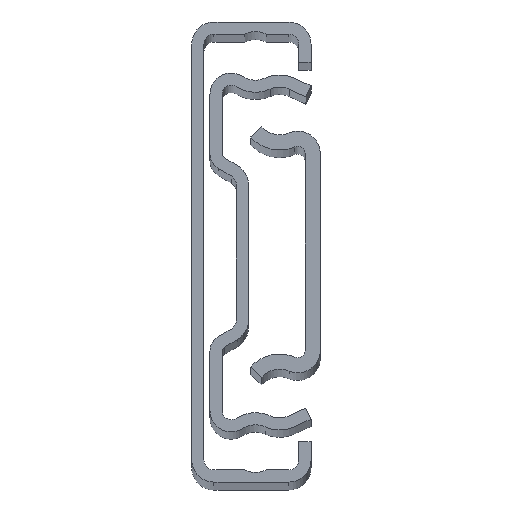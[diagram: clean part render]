
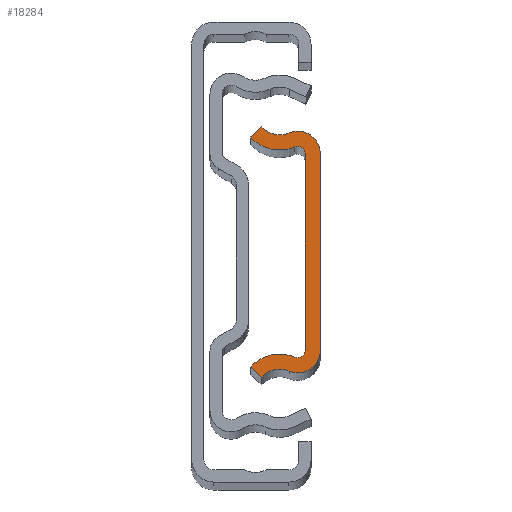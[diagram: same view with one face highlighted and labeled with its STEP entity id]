
A CAD part, top view. The second image highlights one B-rep face of the part: STEP entity #18284.
In plain terms, the highlighted planar face has unit normal (0, 0, 1).
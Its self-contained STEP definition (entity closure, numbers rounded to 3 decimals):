
#263 = DIRECTION ( 'NONE',  ( 1., 0., 0. ) ) ;
#378 = ORIENTED_EDGE ( 'NONE', *, *, #16891, .T. ) ;
#566 = ORIENTED_EDGE ( 'NONE', *, *, #9991, .T. ) ;
#674 = ORIENTED_EDGE ( 'NONE', *, *, #15639, .T. ) ;
#877 = ORIENTED_EDGE ( 'NONE', *, *, #7938, .T. ) ;
#944 = AXIS2_PLACEMENT_3D ( 'NONE', #6196, #19081, #10774 ) ;
#1139 = CARTESIAN_POINT ( 'NONE',  ( 3.45, -9.725, 0. ) ) ;
#1861 = CARTESIAN_POINT ( 'NONE',  ( 1.95, -9.725, 0. ) ) ;
#2195 = AXIS2_PLACEMENT_3D ( 'NONE', #13671, #2927, #7130 ) ;
#2927 = DIRECTION ( 'NONE',  ( 0., 0., 1. ) ) ;
#3216 = DIRECTION ( 'NONE',  ( 1., 0., 0. ) ) ;
#3491 = CARTESIAN_POINT ( 'NONE',  ( 1.224, -9.725, 0. ) ) ;
#3578 = ORIENTED_EDGE ( 'NONE', *, *, #17145, .T. ) ;
#3579 = VECTOR ( 'NONE', #8618, 1000. ) ;
#3627 = AXIS2_PLACEMENT_3D ( 'NONE', #22451, #18156, #7407 ) ;
#3733 = CARTESIAN_POINT ( 'NONE',  ( -2.333, -12.378, 0. ) ) ;
#3949 = CARTESIAN_POINT ( 'NONE',  ( 0.36, -11.777, 0. ) ) ;
#3975 = LINE ( 'NONE', #1139, #6654 ) ;
#4272 = CIRCLE ( 'NONE', #17738, 3.88 ) ;
#4507 = EDGE_CURVE ( 'NONE', #5116, #16095, #8234, .T. ) ;
#4623 = EDGE_CURVE ( 'NONE', #6690, #5588, #9578, .T. ) ;
#4990 = CARTESIAN_POINT ( 'NONE',  ( -3.45, 11.377, 0. ) ) ;
#5116 = VERTEX_POINT ( 'NONE', #1861 ) ;
#5588 = VERTEX_POINT ( 'NONE', #3733 ) ;
#5682 = CARTESIAN_POINT ( 'NONE',  ( 1.224, -9.725, 0. ) ) ;
#5772 = CIRCLE ( 'NONE', #6354, 2.38 ) ;
#5893 = DIRECTION ( 'NONE',  ( -1., 0., 0. ) ) ;
#5919 = ORIENTED_EDGE ( 'NONE', *, *, #11482, .T. ) ;
#6101 = DIRECTION ( 'NONE',  ( 0., 0., 1. ) ) ;
#6196 = CARTESIAN_POINT ( 'NONE',  ( -0.564, -13.97, 0. ) ) ;
#6354 = AXIS2_PLACEMENT_3D ( 'NONE', #23040, #27366, #10234 ) ;
#6654 = VECTOR ( 'NONE', #18252, 1000. ) ;
#6690 = VERTEX_POINT ( 'NONE', #23791 ) ;
#7073 = CIRCLE ( 'NONE', #27272, 2.226 ) ;
#7130 = DIRECTION ( 'NONE',  ( -1., 0., 0. ) ) ;
#7361 = VERTEX_POINT ( 'NONE', #23305 ) ;
#7407 = DIRECTION ( 'NONE',  ( -1., 0., 0. ) ) ;
#7730 = DIRECTION ( 'NONE',  ( 0., -1., 0. ) ) ;
#7938 = EDGE_CURVE ( 'NONE', #16095, #6690, #4272, .T. ) ;
#8152 = VERTEX_POINT ( 'NONE', #10159 ) ;
#8234 = CIRCLE ( 'NONE', #20356, 0.726 ) ;
#8311 = CIRCLE ( 'NONE', #21709, 2.38 ) ;
#8340 = DIRECTION ( 'NONE',  ( 1., 0., 0. ) ) ;
#8489 = EDGE_CURVE ( 'NONE', #8152, #7361, #10233, .T. ) ;
#8571 = CARTESIAN_POINT ( 'NONE',  ( 1.224, 9.725, 0. ) ) ;
#8618 = DIRECTION ( 'NONE',  ( 0.745, -0.667, 0. ) ) ;
#9032 = CARTESIAN_POINT ( 'NONE',  ( -0.564, -13.97, 0. ) ) ;
#9212 = CIRCLE ( 'NONE', #21196, 0.726 ) ;
#9578 = LINE ( 'NONE', #21407, #3579 ) ;
#9668 = CIRCLE ( 'NONE', #3627, 2.226 ) ;
#9991 = EDGE_CURVE ( 'NONE', #7361, #14368, #11844, .T. ) ;
#10155 = ORIENTED_EDGE ( 'NONE', *, *, #4623, .T. ) ;
#10159 = CARTESIAN_POINT ( 'NONE',  ( -2.333, 12.378, 0. ) ) ;
#10233 = LINE ( 'NONE', #4990, #13575 ) ;
#10234 = DIRECTION ( 'NONE',  ( 1., 0., 0. ) ) ;
#10258 = VERTEX_POINT ( 'NONE', #3949 ) ;
#10688 = CARTESIAN_POINT ( 'NONE',  ( 0.942, 10.394, 0. ) ) ;
#10774 = DIRECTION ( 'NONE',  ( 1., 0., 0. ) ) ;
#11302 = DIRECTION ( 'NONE',  ( 0., 0., 1. ) ) ;
#11482 = EDGE_CURVE ( 'NONE', #5588, #10258, #5772, .T. ) ;
#11844 = CIRCLE ( 'NONE', #2195, 3.88 ) ;
#13409 = VERTEX_POINT ( 'NONE', #26636 ) ;
#13575 = VECTOR ( 'NONE', #26484, 1000. ) ;
#13604 = DIRECTION ( 'NONE',  ( -1., 0., 0. ) ) ;
#13671 = CARTESIAN_POINT ( 'NONE',  ( -0.564, 13.97, 0. ) ) ;
#13762 = CARTESIAN_POINT ( 'NONE',  ( 0.36, 11.777, 0. ) ) ;
#14368 = VERTEX_POINT ( 'NONE', #10688 ) ;
#14777 = ORIENTED_EDGE ( 'NONE', *, *, #21446, .T. ) ;
#15106 = VECTOR ( 'NONE', #7730, 1000. ) ;
#15639 = EDGE_CURVE ( 'NONE', #10258, #18956, #7073, .T. ) ;
#15781 = ORIENTED_EDGE ( 'NONE', *, *, #17614, .T. ) ;
#16095 = VERTEX_POINT ( 'NONE', #16606 ) ;
#16468 = LINE ( 'NONE', #20516, #15106 ) ;
#16606 = CARTESIAN_POINT ( 'NONE',  ( 0.942, -10.394, 0. ) ) ;
#16891 = EDGE_CURVE ( 'NONE', #13409, #21898, #9668, .T. ) ;
#17145 = EDGE_CURVE ( 'NONE', #18956, #13409, #3975, .T. ) ;
#17614 = EDGE_CURVE ( 'NONE', #21898, #8152, #8311, .T. ) ;
#17738 = AXIS2_PLACEMENT_3D ( 'NONE', #9032, #11302, #263 ) ;
#17848 = CARTESIAN_POINT ( 'NONE',  ( 1.95, 9.725, 0. ) ) ;
#18156 = DIRECTION ( 'NONE',  ( 0., 0., 1. ) ) ;
#18252 = DIRECTION ( 'NONE',  ( 0., 1., 0. ) ) ;
#18284 = ADVANCED_FACE ( 'Face2', ( #24670 ), #21126, .T. ) ;
#18399 = CARTESIAN_POINT ( 'NONE',  ( -0.564, 13.97, 0. ) ) ;
#18956 = VERTEX_POINT ( 'NONE', #26353 ) ;
#19081 = DIRECTION ( 'NONE',  ( 0., 0., 1. ) ) ;
#20356 = AXIS2_PLACEMENT_3D ( 'NONE', #3491, #20400, #3216 ) ;
#20400 = DIRECTION ( 'NONE',  ( 0., 0., -1. ) ) ;
#20516 = CARTESIAN_POINT ( 'NONE',  ( 1.95, -9.725, 0. ) ) ;
#20633 = VERTEX_POINT ( 'NONE', #17848 ) ;
#21126 = PLANE ( 'NONE',  #944 ) ;
#21196 = AXIS2_PLACEMENT_3D ( 'NONE', #8571, #25787, #13604 ) ;
#21407 = CARTESIAN_POINT ( 'NONE',  ( -3.45, -11.377, 0. ) ) ;
#21446 = EDGE_CURVE ( 'NONE', #20633, #5116, #16468, .T. ) ;
#21709 = AXIS2_PLACEMENT_3D ( 'NONE', #18399, #27197, #5893 ) ;
#21898 = VERTEX_POINT ( 'NONE', #13762 ) ;
#22451 = CARTESIAN_POINT ( 'NONE',  ( 1.224, 9.725, 0. ) ) ;
#22879 = EDGE_LOOP ( 'NONE', ( #5919, #674, #3578, #378, #15781, #27109, #566, #23232, #14777, #27583, #877, #10155 ) ) ;
#23040 = CARTESIAN_POINT ( 'NONE',  ( -0.564, -13.97, 0. ) ) ;
#23232 = ORIENTED_EDGE ( 'NONE', *, *, #25132, .T. ) ;
#23305 = CARTESIAN_POINT ( 'NONE',  ( -3.45, 11.377, 0. ) ) ;
#23791 = CARTESIAN_POINT ( 'NONE',  ( -3.45, -11.377, 0. ) ) ;
#24670 = FACE_OUTER_BOUND ( 'NONE', #22879, .T. ) ;
#25132 = EDGE_CURVE ( 'NONE', #14368, #20633, #9212, .T. ) ;
#25787 = DIRECTION ( 'NONE',  ( 0., 0., -1. ) ) ;
#26353 = CARTESIAN_POINT ( 'NONE',  ( 3.45, -9.725, 0. ) ) ;
#26484 = DIRECTION ( 'NONE',  ( -0.745, -0.667, 0. ) ) ;
#26636 = CARTESIAN_POINT ( 'NONE',  ( 3.45, 9.725, 0. ) ) ;
#27109 = ORIENTED_EDGE ( 'NONE', *, *, #8489, .T. ) ;
#27197 = DIRECTION ( 'NONE',  ( 0., 0., -1. ) ) ;
#27272 = AXIS2_PLACEMENT_3D ( 'NONE', #5682, #6101, #8340 ) ;
#27366 = DIRECTION ( 'NONE',  ( 0., 0., -1. ) ) ;
#27583 = ORIENTED_EDGE ( 'NONE', *, *, #4507, .T. ) ;
